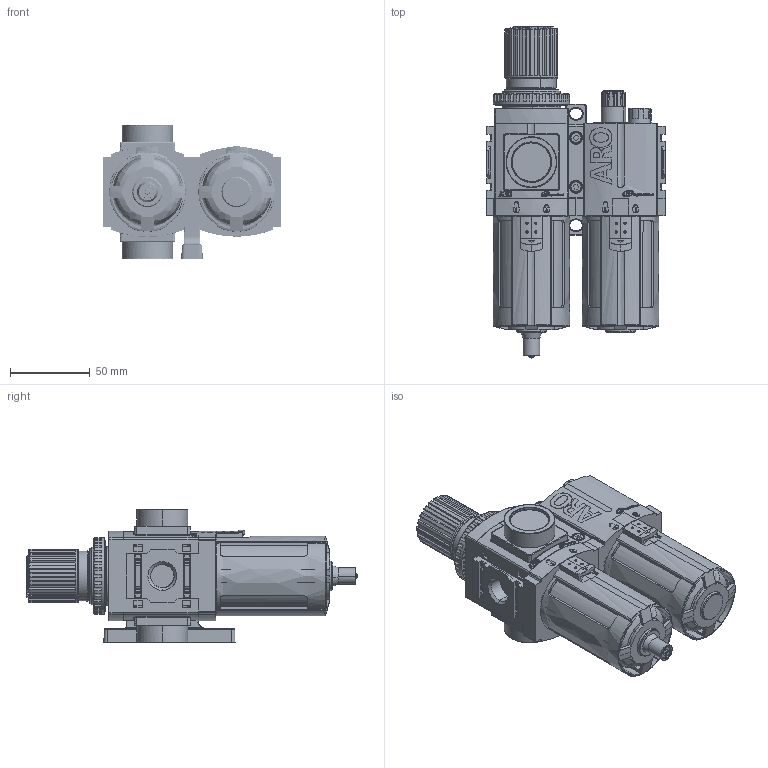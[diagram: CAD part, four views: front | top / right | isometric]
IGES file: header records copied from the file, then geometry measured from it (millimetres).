
Global section: file name: C:\Documents and Settings\szeedyk\Desktop\C382X1-60X_01.igs; native system: NX V4.0; preprocessor: UGS NX IGES V4.0; date: 20090204.110433; units: inch
Bounding box: 112 x 208.46 x 84.1 mm (x, y, z)
Surface area: 128423.2 mm2 (no closed solid volume)
Topology: 0 solids, 0 shells, 3734 faces, 21646 edges, 21633 vertices
Faces by surface type: bspline 3734
